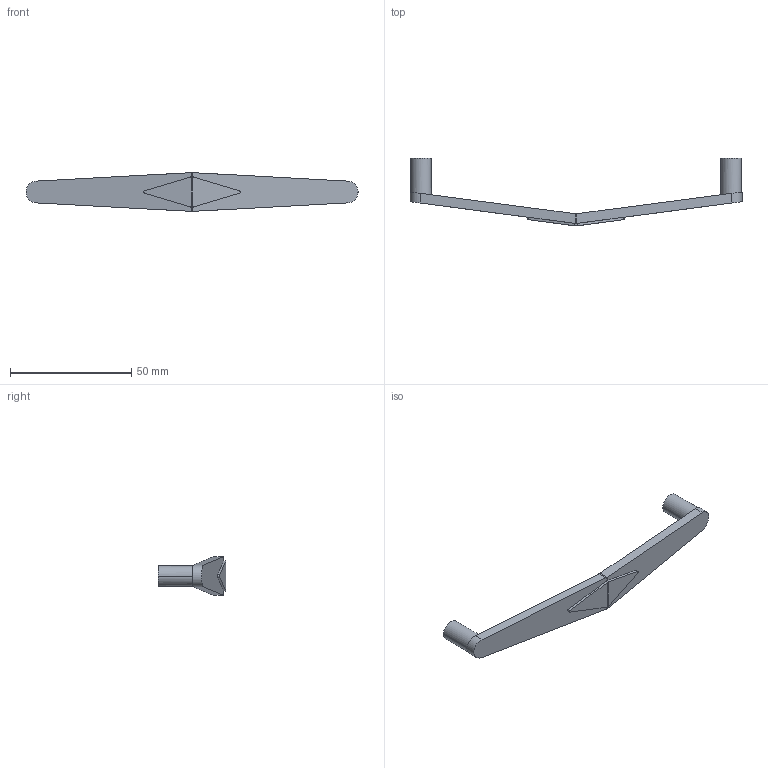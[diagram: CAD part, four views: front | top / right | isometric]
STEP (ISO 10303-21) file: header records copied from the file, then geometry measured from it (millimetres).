
FILE_DESCRIPTION( ( '' ), '1' );
FILE_NAME( 'D:/1.AUTOCAD EXPORT/Group 10/sheet_10_1/9112632.stp', '2013-10-18T05:39:40', ( '' ), ( '' ), ' ', ' ', ' ' );
FILE_SCHEMA( ( 'automotive_design' ) );
Length unit declared in the file: millimetre
Products named in the file (1): 1
Bounding box: 136.97 x 28 x 16 mm (x, y, z)
Volume: 8347.3 mm3; surface area: 5553.2 mm2
Topology: 1 solids, 1 shells, 38 faces, 96 edges, 64 vertices
Faces by surface type: cylinder 20, plane 18
Entity records: 2304 total; most frequent: CARTESIAN_POINT 219, DIRECTION 214, STYLED_ITEM 199, PRESENTATION_STYLE_ASSIGNMENT 199, COLOUR_RGB 199, ORIENTED_EDGE 192, EDGE_CURVE 96, CURVE_STYLE 96
